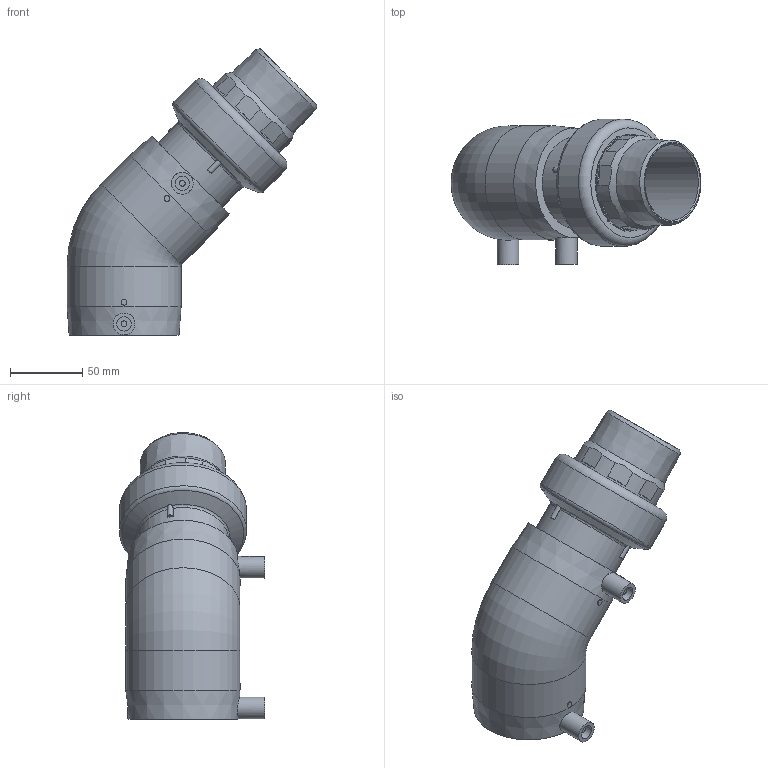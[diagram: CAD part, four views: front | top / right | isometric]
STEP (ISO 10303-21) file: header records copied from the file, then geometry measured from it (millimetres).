
FILE_DESCRIPTION(/* description */ ('Unknown'),/* implementation_level */ '2;1');
FILE_NAME(/* name */ 'GE4TMP063C',/* time_stamp */ '2021-03-02T16:04:45+01:00',/* author */ ('Unknown'),/* organization */ ('Unknown'),/* preprocessor_version */ 'ST-DEVELOPER v16.7',/* originating_system */ 'Solid Edge',/* authorisation */ 'Unknown');
FILE_SCHEMA (('AUTOMOTIVE_DESIGN {1 0 10303 214 3 1 1}'));
Length unit declared in the file: millimetre
Products named in the file (5): GE4TMP063C; GE4P063C; RTOMP063C; Parte PE 063; IOM063C
Assembly tree (4 placements, depth 3):
  GE4TMP063C
    GE4P063C
    RTOMP063C
      Parte PE 063
      IOM063C
Bounding box: 173.02 x 100.41 x 198.52 mm (x, y, z)
Volume: 463479.3 mm3; surface area: 147214.1 mm2
Topology: 3 solids, 3 shells, 430 faces, 1182 edges, 778 vertices
Faces by surface type: cylinder 196, cone 102, plane 85, bspline 27, torus 20
Full cylindrical faces by diameter (mm): 4 x4, 10 x2, 15 x2, 51.4 x1, 52.4 x1, 55.6 x2, 60 x2, 60.2 x2, 63 x3, 65.5 x1, 69.8 x2, 74 x4, 79 x2, 88 x1
Entity records: 18918 total; most frequent: CARTESIAN_POINT 7801, ORIENTED_EDGE 2222, DIRECTION 1722, EDGE_CURVE 1111, AXIS2_PLACEMENT_3D 775, VERTEX_POINT 756, B_SPLINE_CURVE_WITH_KNOTS 524, EDGE_LOOP 505
